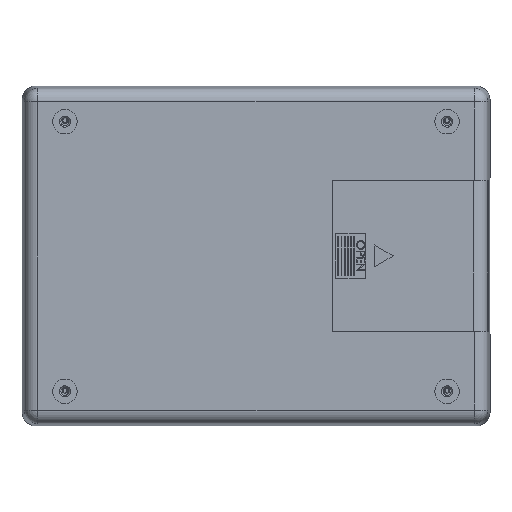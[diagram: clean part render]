
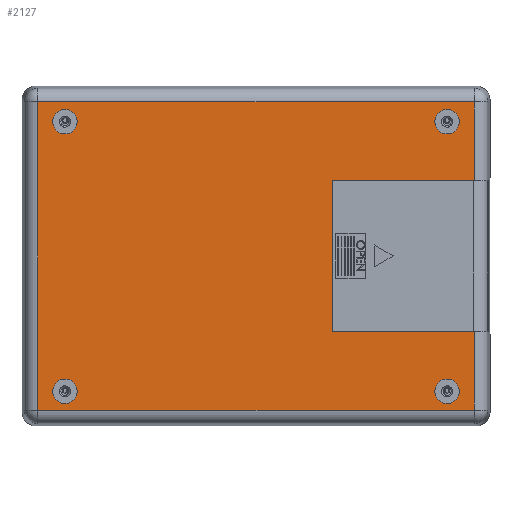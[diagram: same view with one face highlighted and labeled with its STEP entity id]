
A CAD part, front view. The second image highlights one B-rep face of the part: STEP entity #2127.
In plain terms, the highlighted planar face has unit normal (0, -1, 0).
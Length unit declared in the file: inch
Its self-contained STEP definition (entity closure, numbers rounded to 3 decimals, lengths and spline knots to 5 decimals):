
#138 = ORIENTED_EDGE ( 'NONE', *, *, #22475, .F. ) ;
#158 = CIRCLE ( 'NONE', #24923, 0.195 ) ;
#200 = ORIENTED_EDGE ( 'NONE', *, *, #22733, .T. ) ;
#372 = CARTESIAN_POINT ( 'NONE',  ( -3.044, -0.885, 1.944 ) ) ;
#436 = ORIENTED_EDGE ( 'NONE', *, *, #22785, .T. ) ;
#446 = ORIENTED_EDGE ( 'NONE', *, *, #23013, .T. ) ;
#609 = ORIENTED_EDGE ( 'NONE', *, *, #21751, .T. ) ;
#684 = AXIS2_PLACEMENT_3D ( 'NONE', #20940, #2925, #23964 ) ;
#792 = FACE_BOUND ( 'NONE', #5072, .T. ) ;
#899 = ORIENTED_EDGE ( 'NONE', *, *, #21518, .F. ) ;
#909 = ORIENTED_EDGE ( 'NONE', *, *, #15783, .F. ) ;
#1108 = DIRECTION ( 'NONE',  ( 0., 0., -1. ) ) ;
#1314 = ORIENTED_EDGE ( 'NONE', *, *, #21525, .F. ) ;
#1362 = ORIENTED_EDGE ( 'NONE', *, *, #35318, .F. ) ;
#1484 = VERTEX_POINT ( 'NONE', #7111 ) ;
#2069 = CIRCLE ( 'NONE', #32360, 0.195 ) ;
#2127 = ADVANCED_FACE ( 'NONE', ( #792, #24892, #8928, #31958, #23939 ), #5544, .F. ) ;
#2231 = DIRECTION ( 'NONE',  ( 0., 1., 0. ) ) ;
#2925 = DIRECTION ( 'NONE',  ( 0., -1., 0. ) ) ;
#3323 = EDGE_LOOP ( 'NONE', ( #899, #909 ) ) ;
#3474 = CARTESIAN_POINT ( 'NONE',  ( 3.044, -0.885, -2.156 ) ) ;
#4222 = CARTESIAN_POINT ( 'NONE',  ( 3.044, -0.885, -2.156 ) ) ;
#4255 = EDGE_LOOP ( 'NONE', ( #38450, #9460 ) ) ;
#4269 = ORIENTED_EDGE ( 'NONE', *, *, #22599, .F. ) ;
#4618 = EDGE_LOOP ( 'NONE', ( #1314, #1362 ) ) ;
#4739 = EDGE_LOOP ( 'NONE', ( #25415, #4269, #28216, #138, #200, #436, #446, #609 ) ) ;
#4754 = VERTEX_POINT ( 'NONE', #14485 ) ;
#5072 = EDGE_LOOP ( 'NONE', ( #29639, #6643 ) ) ;
#5102 = LINE ( 'NONE', #12554, #28090 ) ;
#5196 = DIRECTION ( 'NONE',  ( 0., 0., 1. ) ) ;
#5263 = CARTESIAN_POINT ( 'NONE',  ( -3.47424, -0.885, 2.45424 ) ) ;
#5381 = DIRECTION ( 'NONE',  ( 0., 0., -1. ) ) ;
#5383 = DIRECTION ( 'NONE',  ( 0., 0., 1. ) ) ;
#5544 = PLANE ( 'NONE',  #14025 ) ;
#5589 = CARTESIAN_POINT ( 'NONE',  ( -3.7275, -0.885, 2.7075 ) ) ;
#5591 = VECTOR ( 'NONE', #31796, 39.37008 ) ;
#5677 = CIRCLE ( 'NONE', #684, 0.195 ) ;
#6446 = EDGE_CURVE ( 'NONE', #30715, #4754, #2069, .T. ) ;
#6545 = DIRECTION ( 'NONE',  ( 0., 0., -1. ) ) ;
#6625 = CIRCLE ( 'NONE', #35732, 0.195 ) ;
#6643 = ORIENTED_EDGE ( 'NONE', *, *, #26562, .F. ) ;
#7089 = CIRCLE ( 'NONE', #14742, 0.195 ) ;
#7111 = CARTESIAN_POINT ( 'NONE',  ( -3.044, -0.885, -1.961 ) ) ;
#7173 = CARTESIAN_POINT ( 'NONE',  ( 3.46342, -0.885, -2.45424 ) ) ;
#7272 = DIRECTION ( 'NONE',  ( 0., 0., -1. ) ) ;
#7297 = CARTESIAN_POINT ( 'NONE',  ( -3.044, -0.885, 2.334 ) ) ;
#7770 = DIRECTION ( 'NONE',  ( -1., 0., 0. ) ) ;
#7998 = LINE ( 'NONE', #7173, #24906 ) ;
#8172 = VECTOR ( 'NONE', #5383, 39.37008 ) ;
#8598 = VERTEX_POINT ( 'NONE', #20561 ) ;
#8928 = FACE_OUTER_BOUND ( 'NONE', #4739, .T. ) ;
#9460 = ORIENTED_EDGE ( 'NONE', *, *, #6446, .F. ) ;
#9799 = VECTOR ( 'NONE', #32454, 39.37008 ) ;
#10046 = DIRECTION ( 'NONE',  ( 1., 0., 0. ) ) ;
#10921 = LINE ( 'NONE', #23326, #26891 ) ;
#12427 = VERTEX_POINT ( 'NONE', #7297 ) ;
#12554 = CARTESIAN_POINT ( 'NONE',  ( 3.47424, -0.885, 2.44342 ) ) ;
#13808 = DIRECTION ( 'NONE',  ( 0., -1., 0. ) ) ;
#14025 = AXIS2_PLACEMENT_3D ( 'NONE', #5589, #2231, #5196 ) ;
#14395 = CARTESIAN_POINT ( 'NONE',  ( 1.21524, -0.885, -1.19882 ) ) ;
#14485 = CARTESIAN_POINT ( 'NONE',  ( 3.044, -0.885, 1.944 ) ) ;
#14742 = AXIS2_PLACEMENT_3D ( 'NONE', #31818, #13808, #34768 ) ;
#14905 = DIRECTION ( 'NONE',  ( 0., -1., 0. ) ) ;
#14958 = VERTEX_POINT ( 'NONE', #372 ) ;
#15287 = DIRECTION ( 'NONE',  ( 0., -1., 0. ) ) ;
#15783 = EDGE_CURVE ( 'NONE', #12427, #14958, #35967, .T. ) ;
#15844 = DIRECTION ( 'NONE',  ( -1., 0., 0. ) ) ;
#16113 = LINE ( 'NONE', #23208, #8172 ) ;
#16239 = CARTESIAN_POINT ( 'NONE',  ( 3.47424, -0.885, 2.45424 ) ) ;
#17106 = CARTESIAN_POINT ( 'NONE',  ( -3.47424, -0.885, -2.45424 ) ) ;
#17685 = AXIS2_PLACEMENT_3D ( 'NONE', #3474, #24518, #6545 ) ;
#18202 = VECTOR ( 'NONE', #15844, 39.37008 ) ;
#18537 = CARTESIAN_POINT ( 'NONE',  ( -3.044, -0.885, -2.351 ) ) ;
#18565 = AXIS2_PLACEMENT_3D ( 'NONE', #37103, #19163, #1108 ) ;
#18575 = CARTESIAN_POINT ( 'NONE',  ( 1.21524, -0.885, 1.19882 ) ) ;
#19163 = DIRECTION ( 'NONE',  ( 0., -1., 0. ) ) ;
#19664 = EDGE_CURVE ( 'NONE', #20704, #29204, #16113, .T. ) ;
#19955 = VERTEX_POINT ( 'NONE', #18575 ) ;
#20331 = CARTESIAN_POINT ( 'NONE',  ( 1.21524, -0.885, -1.19882 ) ) ;
#20561 = CARTESIAN_POINT ( 'NONE',  ( 3.044, -0.885, -2.351 ) ) ;
#20704 = VERTEX_POINT ( 'NONE', #30640 ) ;
#20747 = VERTEX_POINT ( 'NONE', #27842 ) ;
#20940 = CARTESIAN_POINT ( 'NONE',  ( -3.044, -0.885, -2.156 ) ) ;
#20993 = CARTESIAN_POINT ( 'NONE',  ( 3.47424, -0.885, 1.19882 ) ) ;
#21494 = DIRECTION ( 'NONE',  ( 0., 0., 1. ) ) ;
#21518 = EDGE_CURVE ( 'NONE', #14958, #12427, #6625, .T. ) ;
#21525 = EDGE_CURVE ( 'NONE', #23879, #1484, #5677, .T. ) ;
#21751 = EDGE_CURVE ( 'NONE', #23586, #20704, #7998, .T. ) ;
#22030 = CARTESIAN_POINT ( 'NONE',  ( 3.044, -0.885, 2.334 ) ) ;
#22475 = EDGE_CURVE ( 'NONE', #26905, #19955, #38362, .T. ) ;
#22479 = EDGE_CURVE ( 'NONE', #19955, #33482, #29546, .T. ) ;
#22599 = EDGE_CURVE ( 'NONE', #33482, #29204, #32829, .T. ) ;
#22733 = EDGE_CURVE ( 'NONE', #26905, #27134, #5102, .T. ) ;
#22785 = EDGE_CURVE ( 'NONE', #27134, #34574, #34158, .T. ) ;
#23013 = EDGE_CURVE ( 'NONE', #34574, #23586, #10921, .T. ) ;
#23208 = CARTESIAN_POINT ( 'NONE',  ( 3.47424, -0.885, 2.44342 ) ) ;
#23253 = EDGE_CURVE ( 'NONE', #8598, #20747, #35292, .T. ) ;
#23326 = CARTESIAN_POINT ( 'NONE',  ( -3.47424, -0.885, -2.44342 ) ) ;
#23465 = AXIS2_PLACEMENT_3D ( 'NONE', #33288, #15287, #36246 ) ;
#23586 = VERTEX_POINT ( 'NONE', #17106 ) ;
#23879 = VERTEX_POINT ( 'NONE', #18537 ) ;
#23939 = FACE_BOUND ( 'NONE', #4618, .T. ) ;
#23964 = DIRECTION ( 'NONE',  ( 0., 0., -1. ) ) ;
#24130 = EDGE_CURVE ( 'NONE', #4754, #30715, #7089, .T. ) ;
#24518 = DIRECTION ( 'NONE',  ( 0., -1., 0. ) ) ;
#24892 = FACE_BOUND ( 'NONE', #4255, .T. ) ;
#24906 = VECTOR ( 'NONE', #10046, 39.37008 ) ;
#24923 = AXIS2_PLACEMENT_3D ( 'NONE', #4222, #25245, #7272 ) ;
#25245 = DIRECTION ( 'NONE',  ( 0., -1., 0. ) ) ;
#25415 = ORIENTED_EDGE ( 'NONE', *, *, #19664, .T. ) ;
#26562 = EDGE_CURVE ( 'NONE', #20747, #8598, #158, .T. ) ;
#26891 = VECTOR ( 'NONE', #5381, 39.37008 ) ;
#26905 = VERTEX_POINT ( 'NONE', #20993 ) ;
#27134 = VERTEX_POINT ( 'NONE', #16239 ) ;
#27780 = DIRECTION ( 'NONE',  ( 0., 0., -1. ) ) ;
#27832 = DIRECTION ( 'NONE',  ( 0., -1., 0. ) ) ;
#27842 = CARTESIAN_POINT ( 'NONE',  ( 3.044, -0.885, -1.961 ) ) ;
#27881 = CARTESIAN_POINT ( 'NONE',  ( 3.044, -0.885, 2.139 ) ) ;
#28090 = VECTOR ( 'NONE', #21494, 39.37008 ) ;
#28216 = ORIENTED_EDGE ( 'NONE', *, *, #22479, .F. ) ;
#28747 = CARTESIAN_POINT ( 'NONE',  ( 1.21524, -0.885, 1.19882 ) ) ;
#29204 = VERTEX_POINT ( 'NONE', #35594 ) ;
#29436 = CIRCLE ( 'NONE', #23465, 0.195 ) ;
#29546 = LINE ( 'NONE', #28747, #5591 ) ;
#29639 = ORIENTED_EDGE ( 'NONE', *, *, #23253, .F. ) ;
#30640 = CARTESIAN_POINT ( 'NONE',  ( 3.47424, -0.885, -2.45424 ) ) ;
#30715 = VERTEX_POINT ( 'NONE', #22030 ) ;
#31796 = DIRECTION ( 'NONE',  ( 0., 0., -1. ) ) ;
#31818 = CARTESIAN_POINT ( 'NONE',  ( 3.044, -0.885, 2.139 ) ) ;
#31958 = FACE_BOUND ( 'NONE', #3323, .T. ) ;
#32360 = AXIS2_PLACEMENT_3D ( 'NONE', #27881, #27832, #27780 ) ;
#32454 = DIRECTION ( 'NONE',  ( 1., 0., 0. ) ) ;
#32829 = LINE ( 'NONE', #20331, #9799 ) ;
#32923 = CARTESIAN_POINT ( 'NONE',  ( -3.044, -0.885, 2.139 ) ) ;
#33288 = CARTESIAN_POINT ( 'NONE',  ( -3.044, -0.885, -2.156 ) ) ;
#33482 = VERTEX_POINT ( 'NONE', #14395 ) ;
#34158 = LINE ( 'NONE', #36775, #18202 ) ;
#34574 = VERTEX_POINT ( 'NONE', #5263 ) ;
#34611 = CARTESIAN_POINT ( 'NONE',  ( 3.8304, -0.885, 1.19882 ) ) ;
#34768 = DIRECTION ( 'NONE',  ( 0., 0., -1. ) ) ;
#35292 = CIRCLE ( 'NONE', #17685, 0.195 ) ;
#35318 = EDGE_CURVE ( 'NONE', #1484, #23879, #29436, .T. ) ;
#35594 = CARTESIAN_POINT ( 'NONE',  ( 3.47424, -0.885, -1.19882 ) ) ;
#35732 = AXIS2_PLACEMENT_3D ( 'NONE', #32923, #14905, #35865 ) ;
#35865 = DIRECTION ( 'NONE',  ( 0., 0., -1. ) ) ;
#35967 = CIRCLE ( 'NONE', #18565, 0.195 ) ;
#36246 = DIRECTION ( 'NONE',  ( 0., 0., -1. ) ) ;
#36490 = VECTOR ( 'NONE', #7770, 39.37008 ) ;
#36775 = CARTESIAN_POINT ( 'NONE',  ( -3.46342, -0.885, 2.45424 ) ) ;
#37103 = CARTESIAN_POINT ( 'NONE',  ( -3.044, -0.885, 2.139 ) ) ;
#38362 = LINE ( 'NONE', #34611, #36490 ) ;
#38450 = ORIENTED_EDGE ( 'NONE', *, *, #24130, .F. ) ;
